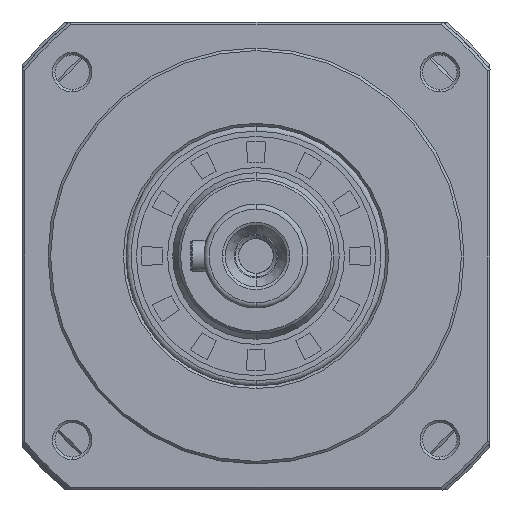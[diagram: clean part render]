
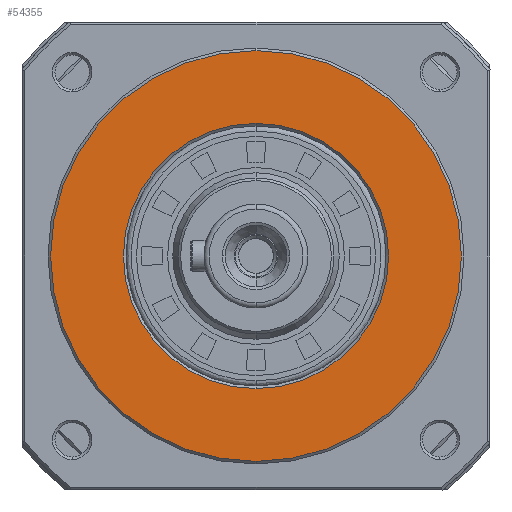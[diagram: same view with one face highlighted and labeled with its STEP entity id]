
A CAD part, left-side view. The second image highlights one B-rep face of the part: STEP entity #54355.
In plain terms, the highlighted planar face has unit normal (-1, 0, 0).
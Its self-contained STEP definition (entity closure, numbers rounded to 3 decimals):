
#1118 = CARTESIAN_POINT ( 'NONE',  ( 0., 0., 0. ) ) ;
#1751 = DIRECTION ( 'NONE',  ( 0., 0., -1. ) ) ;
#4246 = ORIENTED_EDGE ( 'NONE', *, *, #62868, .T. ) ;
#5408 = DIRECTION ( 'NONE',  ( -1., 0., 0. ) ) ;
#7583 = DIRECTION ( 'NONE',  ( -1., 0., 0. ) ) ;
#8359 = AXIS2_PLACEMENT_3D ( 'NONE', #38210, #68140, #8601 ) ;
#8601 = DIRECTION ( 'NONE',  ( 0., 0., 1. ) ) ;
#11544 = PLANE ( 'NONE',  #76831 ) ;
#13089 = CIRCLE ( 'NONE', #19244, 25.5 ) ;
#17484 = EDGE_CURVE ( 'NONE', #71054, #54539, #29598, .T. ) ;
#19244 = AXIS2_PLACEMENT_3D ( 'NONE', #27504, #5408, #57466 ) ;
#22326 = CARTESIAN_POINT ( 'NONE',  ( 0., 0., -39.5 ) ) ;
#24152 = EDGE_CURVE ( 'NONE', #54539, #71054, #13089, .T. ) ;
#27504 = CARTESIAN_POINT ( 'NONE',  ( 0., 0., 0. ) ) ;
#29598 = CIRCLE ( 'NONE', #8359, 25.5 ) ;
#36004 = ORIENTED_EDGE ( 'NONE', *, *, #73001, .T. ) ;
#38210 = CARTESIAN_POINT ( 'NONE',  ( 0., 0., 0. ) ) ;
#38809 = DIRECTION ( 'NONE',  ( -1., 0., 0. ) ) ;
#41446 = DIRECTION ( 'NONE',  ( 0., 0., -1. ) ) ;
#43049 = ORIENTED_EDGE ( 'NONE', *, *, #17484, .F. ) ;
#49234 = CARTESIAN_POINT ( 'NONE',  ( 0., 0., 25.5 ) ) ;
#53085 = CARTESIAN_POINT ( 'NONE',  ( 0., 0., 0. ) ) ;
#54355 = ADVANCED_FACE ( 'NONE', ( #84524, #86872 ), #11544, .F. ) ;
#54539 = VERTEX_POINT ( 'NONE', #88014 ) ;
#56101 = CARTESIAN_POINT ( 'NONE',  ( 0., -39.974, 39.974 ) ) ;
#57466 = DIRECTION ( 'NONE',  ( 0., 0., 1. ) ) ;
#60257 = DIRECTION ( 'NONE',  ( 0., 0., -1. ) ) ;
#62868 = EDGE_CURVE ( 'NONE', #93827, #73924, #79970, .T. ) ;
#63940 = DIRECTION ( 'NONE',  ( 1., 0., 0. ) ) ;
#64479 = AXIS2_PLACEMENT_3D ( 'NONE', #1118, #38809, #1751 ) ;
#68140 = DIRECTION ( 'NONE',  ( -1., 0., 0. ) ) ;
#71054 = VERTEX_POINT ( 'NONE', #49234 ) ;
#73001 = EDGE_CURVE ( 'NONE', #73924, #93827, #79532, .T. ) ;
#73924 = VERTEX_POINT ( 'NONE', #22326 ) ;
#75429 = AXIS2_PLACEMENT_3D ( 'NONE', #53085, #7583, #60257 ) ;
#76831 = AXIS2_PLACEMENT_3D ( 'NONE', #56101, #63940, #41446 ) ;
#79532 = CIRCLE ( 'NONE', #64479, 39.5 ) ;
#79970 = CIRCLE ( 'NONE', #75429, 39.5 ) ;
#83585 = EDGE_LOOP ( 'NONE', ( #43049, #96224 ) ) ;
#84524 = FACE_BOUND ( 'NONE', #83585, .T. ) ;
#86872 = FACE_OUTER_BOUND ( 'NONE', #96289, .T. ) ;
#87659 = CARTESIAN_POINT ( 'NONE',  ( 0., 0., 39.5 ) ) ;
#88014 = CARTESIAN_POINT ( 'NONE',  ( 0., 0., -25.5 ) ) ;
#93827 = VERTEX_POINT ( 'NONE', #87659 ) ;
#96224 = ORIENTED_EDGE ( 'NONE', *, *, #24152, .F. ) ;
#96289 = EDGE_LOOP ( 'NONE', ( #36004, #4246 ) ) ;
